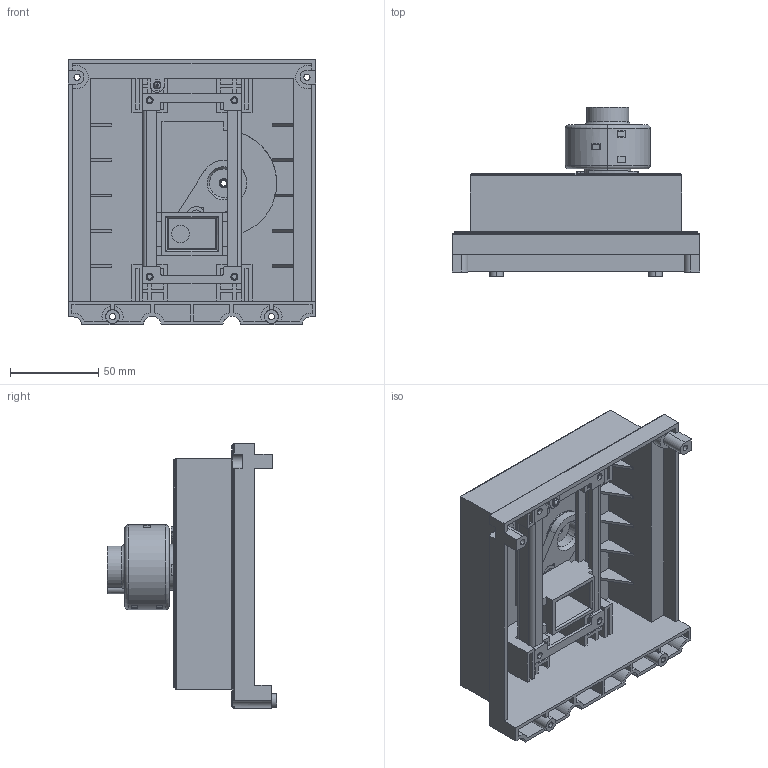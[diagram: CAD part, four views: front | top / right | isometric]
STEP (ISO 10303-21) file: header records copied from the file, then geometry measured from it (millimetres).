
FILE_DESCRIPTION((''),'2;1');
FILE_NAME('GAI_ASM','2025-02-21T11:02:42',('gaoleixiao'),(''),'CREO PARAMETRIC BY PTC INC, 2020354','CREO PARAMETRIC BY PTC INC, 2020354','');
FILE_SCHEMA(('CONFIG_CONTROL_DESIGN'));
Length unit declared in the file: millimetre
Products named in the file (13): JIZUO; WL8_150_059; AN; WL8_128_013; YA; BODY; WL8_200_005; WL8_232_034; WL8_555_001; WL8_100_125; WL5_261_020; WL8_210_076; GAI_ASM
Assembly tree (16 placements, depth 2):
  GAI_ASM
    JIZUO
    WL8_150_059
    AN
    WL8_128_013  x2
    YA
    BODY  x2
    WL8_200_005
    WL8_232_034
    WL8_555_001  x2
    WL8_100_125  x2
    WL5_261_020
    WL8_210_076
Bounding box: 140 x 96 x 150.5 mm (x, y, z)
Volume: 206003.4 mm3; surface area: 169427.3 mm2
Topology: 16 solids, 16 shells, 1200 faces, 3282 edges, 2161 vertices
Faces by surface type: plane 782, cylinder 360, torus 35, cone 20, sphere 3
Entity records: 34355 total; most frequent: CARTESIAN_POINT 6616, ORIENTED_EDGE 5800, DIRECTION 5680, EDGE_CURVE 2900, VECTOR 2002, LINE 2002, VERTEX_POINT 1903, AXIS2_PLACEMENT_3D 1839
